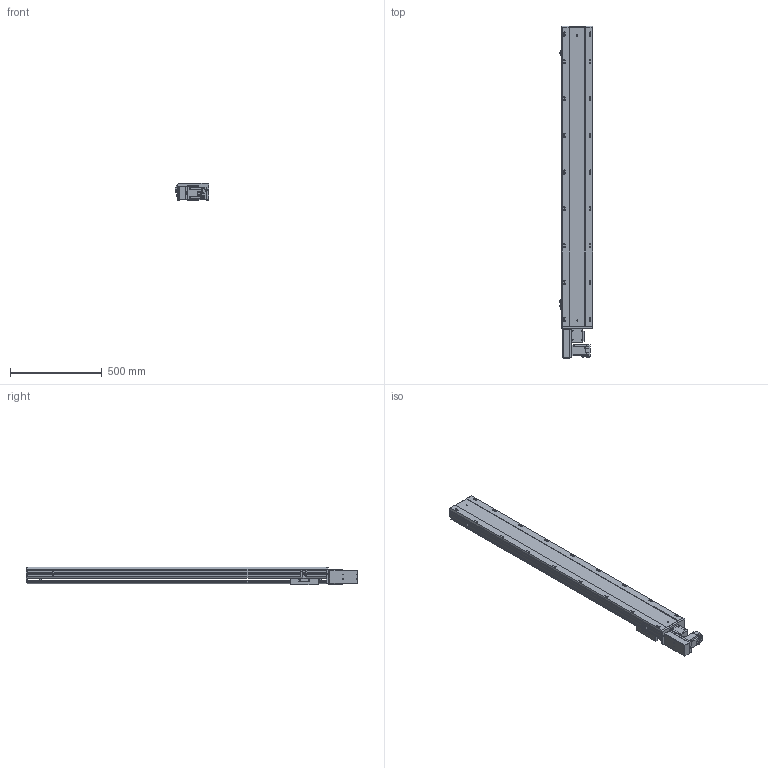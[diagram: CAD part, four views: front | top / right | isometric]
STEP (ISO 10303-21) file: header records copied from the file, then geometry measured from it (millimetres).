
FILE_DESCRIPTION (( 'STEP AP203' ), '1' );
FILE_NAME ('BTB17-L40-1350-R-M40-C4.STEP', '2022-07-20T06:38:29', ( 'CXY' ), ( 'BT' ), 'SwSTEP 2.0', 'SolidWorks 2016', '' );
FILE_SCHEMA (( 'CONFIG_CONTROL_DESIGN' ));
Length unit declared in the file: millimetre
Products named in the file (11): M40; FS-07-T40(1); BTB17-L-04; BTB17-L-HZ; BTB17-L-23; BTB17-L-菁釱_XD; BTB17-L-24; BTB17-L-01; BTB17-L40-1350-R-M40-C4; FS-08-T40; BTB17-L-06
Assembly tree (13 placements, depth 2):
  BTB17-L40-1350-R-M40-C4
    BTB17-L-菁釱_XD
    BTB17-L-01
    BTB17-L-04  x3
    BTB17-L-06
    BTB17-L-23  x2
    BTB17-L-24
    BTB17-L-HZ
    FS-07-T40(1)
    FS-08-T40
    M40
Bounding box: 183.7 x 1804.5 x 97 mm (x, y, z)
Volume: 14619087.6 mm3; surface area: 1956124.3 mm2
Topology: 22 solids, 22 shells, 1651 faces, 4339 edges, 2748 vertices
Faces by surface type: plane 911, cylinder 548, cone 160, torus 16, bspline 16
Entity records: 43030 total; most frequent: CARTESIAN_POINT 8422, DIRECTION 7053, ORIENTED_EDGE 6814, EDGE_CURVE 3407, AXIS2_PLACEMENT_3D 2401, LINE 2251, VECTOR 2251, VERTEX_POINT 2216
